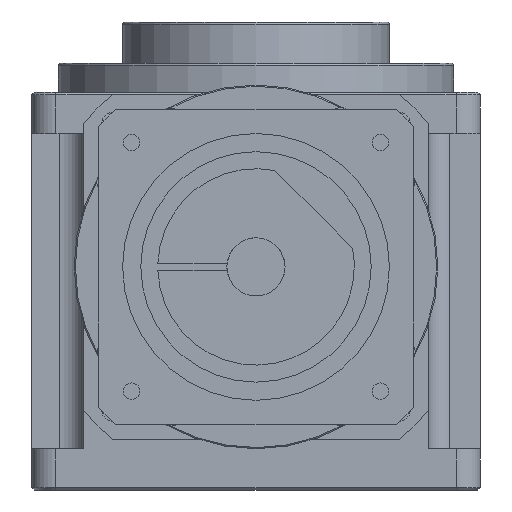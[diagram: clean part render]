
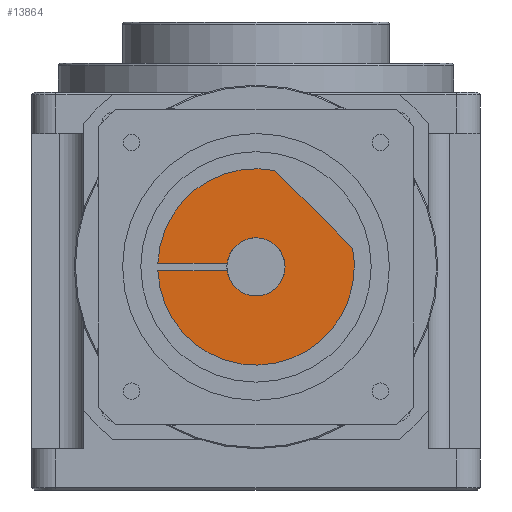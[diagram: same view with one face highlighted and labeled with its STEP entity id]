
A CAD part, front view. The second image highlights one B-rep face of the part: STEP entity #13864.
In plain terms, the highlighted planar face has unit normal (0, -1, 0) as drawn and (0, 0, -1) by its records, which use the part's own axes.
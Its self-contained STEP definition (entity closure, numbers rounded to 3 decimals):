
#40 = EDGE_CURVE ( 'NONE', #15474, #6308, #15682, .T. ) ;
#538 = CIRCLE ( 'NONE', #13773, 40.5 ) ;
#622 = AXIS2_PLACEMENT_3D ( 'NONE', #17075, #2256, #3900 ) ;
#786 = EDGE_CURVE ( 'NONE', #6308, #956, #13580, .T. ) ;
#899 = FACE_OUTER_BOUND ( 'NONE', #18212, .T. ) ;
#956 = VERTEX_POINT ( 'NONE', #12824 ) ;
#962 = CIRCLE ( 'NONE', #8364, 12. ) ;
#986 = ORIENTED_EDGE ( 'NONE', *, *, #786, .T. ) ;
#1011 = EDGE_CURVE ( 'NONE', #8744, #10244, #962, .T. ) ;
#1341 = DIRECTION ( 'NONE',  ( -1., 0., 0. ) ) ;
#1550 = CARTESIAN_POINT ( 'NONE',  ( 23.75, -23.75, -166. ) ) ;
#1551 = DIRECTION ( 'NONE',  ( 0., 0., -1. ) ) ;
#1592 = AXIS2_PLACEMENT_3D ( 'NONE', #11019, #16866, #2440 ) ;
#2256 = DIRECTION ( 'NONE',  ( 0., 0., -1. ) ) ;
#2440 = DIRECTION ( 'NONE',  ( -1., 0., 0. ) ) ;
#2803 = AXIS2_PLACEMENT_3D ( 'NONE', #10777, #5272, #11448 ) ;
#2860 = DIRECTION ( 'NONE',  ( 0., 0., -1. ) ) ;
#3507 = EDGE_CURVE ( 'NONE', #10244, #11838, #15814, .T. ) ;
#3526 = ORIENTED_EDGE ( 'NONE', *, *, #1011, .F. ) ;
#3603 = ORIENTED_EDGE ( 'NONE', *, *, #8203, .T. ) ;
#3661 = CARTESIAN_POINT ( 'NONE',  ( 12., 0., -166. ) ) ;
#3779 = PLANE ( 'NONE',  #1592 ) ;
#3900 = DIRECTION ( 'NONE',  ( -1., 0., 0. ) ) ;
#4920 = CARTESIAN_POINT ( 'NONE',  ( -8.592, -1.5, -166. ) ) ;
#5272 = DIRECTION ( 'NONE',  ( 0., 0., -1. ) ) ;
#6187 = VERTEX_POINT ( 'NONE', #12243 ) ;
#6308 = VERTEX_POINT ( 'NONE', #13966 ) ;
#6380 = DIRECTION ( 'NONE',  ( -1., 0., 0. ) ) ;
#7131 = ORIENTED_EDGE ( 'NONE', *, *, #3507, .F. ) ;
#8148 = ORIENTED_EDGE ( 'NONE', *, *, #16044, .F. ) ;
#8203 = EDGE_CURVE ( 'NONE', #15141, #6187, #538, .T. ) ;
#8353 = CARTESIAN_POINT ( 'NONE',  ( -40.472, 1.5, -166. ) ) ;
#8364 = AXIS2_PLACEMENT_3D ( 'NONE', #16051, #2860, #8758 ) ;
#8461 = AXIS2_PLACEMENT_3D ( 'NONE', #8771, #14542, #1341 ) ;
#8744 = VERTEX_POINT ( 'NONE', #18663 ) ;
#8758 = DIRECTION ( 'NONE',  ( -1., 0., 0. ) ) ;
#8771 = CARTESIAN_POINT ( 'NONE',  ( 0., 0., -166. ) ) ;
#9066 = CARTESIAN_POINT ( 'NONE',  ( -8.592, 1.5, -166. ) ) ;
#10244 = VERTEX_POINT ( 'NONE', #3661 ) ;
#10317 = LINE ( 'NONE', #9066, #17338 ) ;
#10721 = LINE ( 'NONE', #4920, #15488 ) ;
#10777 = CARTESIAN_POINT ( 'NONE',  ( 0., 0., -166. ) ) ;
#10802 = ORIENTED_EDGE ( 'NONE', *, *, #16627, .F. ) ;
#11019 = CARTESIAN_POINT ( 'NONE',  ( 0., 0., -166. ) ) ;
#11448 = DIRECTION ( 'NONE',  ( -1., 0., 0. ) ) ;
#11838 = VERTEX_POINT ( 'NONE', #14889 ) ;
#12243 = CARTESIAN_POINT ( 'NONE',  ( -40.472, -1.5, -166. ) ) ;
#12824 = CARTESIAN_POINT ( 'NONE',  ( 39.752, -7.748, -166. ) ) ;
#13580 = CIRCLE ( 'NONE', #2803, 40.5 ) ;
#13685 = CARTESIAN_POINT ( 'NONE',  ( 0., 0., -166. ) ) ;
#13773 = AXIS2_PLACEMENT_3D ( 'NONE', #13685, #1551, #15117 ) ;
#13864 = ADVANCED_FACE ( 'NONE', ( #899 ), #3779, .T. ) ;
#13966 = CARTESIAN_POINT ( 'NONE',  ( 40.5, 0., -166. ) ) ;
#14542 = DIRECTION ( 'NONE',  ( 0., 0., -1. ) ) ;
#14563 = DIRECTION ( 'NONE',  ( 0.707, 0.707, 0. ) ) ;
#14889 = CARTESIAN_POINT ( 'NONE',  ( -11.906, -1.5, -166. ) ) ;
#15117 = DIRECTION ( 'NONE',  ( -1., 0., 0. ) ) ;
#15141 = VERTEX_POINT ( 'NONE', #16430 ) ;
#15250 = VECTOR ( 'NONE', #14563, 1000. ) ;
#15474 = VERTEX_POINT ( 'NONE', #8353 ) ;
#15488 = VECTOR ( 'NONE', #6380, 1000. ) ;
#15682 = CIRCLE ( 'NONE', #622, 40.5 ) ;
#15814 = CIRCLE ( 'NONE', #8461, 12. ) ;
#16044 = EDGE_CURVE ( 'NONE', #11838, #6187, #10721, .T. ) ;
#16051 = CARTESIAN_POINT ( 'NONE',  ( 0., 0., -166. ) ) ;
#16361 = DIRECTION ( 'NONE',  ( 1., 0., 0. ) ) ;
#16371 = LINE ( 'NONE', #1550, #15250 ) ;
#16430 = CARTESIAN_POINT ( 'NONE',  ( 7.748, -39.752, -166. ) ) ;
#16627 = EDGE_CURVE ( 'NONE', #15474, #8744, #10317, .T. ) ;
#16712 = ORIENTED_EDGE ( 'NONE', *, *, #17936, .F. ) ;
#16866 = DIRECTION ( 'NONE',  ( 0., 0., -1. ) ) ;
#17044 = ORIENTED_EDGE ( 'NONE', *, *, #40, .T. ) ;
#17075 = CARTESIAN_POINT ( 'NONE',  ( 0., 0., -166. ) ) ;
#17338 = VECTOR ( 'NONE', #16361, 1000. ) ;
#17936 = EDGE_CURVE ( 'NONE', #15141, #956, #16371, .T. ) ;
#18212 = EDGE_LOOP ( 'NONE', ( #16712, #3603, #8148, #7131, #3526, #10802, #17044, #986 ) ) ;
#18663 = CARTESIAN_POINT ( 'NONE',  ( -11.906, 1.5, -166. ) ) ;
